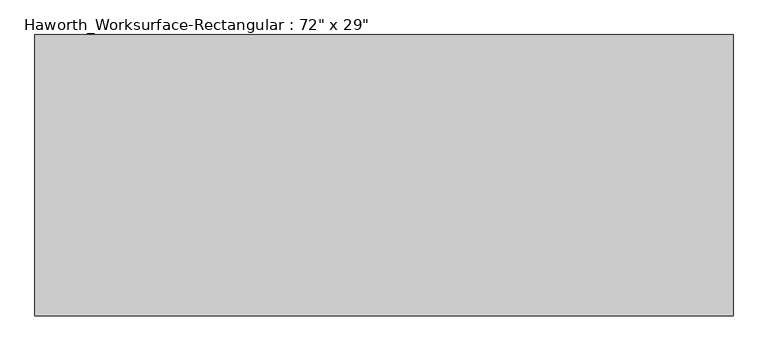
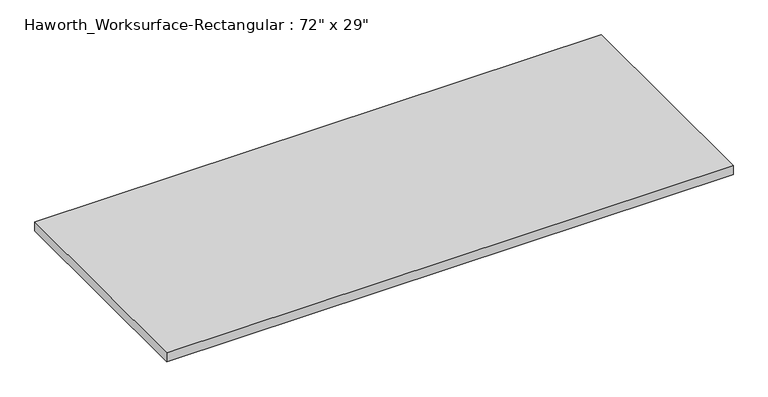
"""IFC4 building model written with IfcOpenShell, lengths in millimetres: furniture geometry."""

from ifc_helpers import new_model, si_unit, frame, origin, place, context, project, spatial, polyline, outline, extrude, source, transform, mapped, element, save


def furniture_1e764f3c(model_context):
    return source(origin(), model_context, "Body", "SweptSolid", [
        extrude(outline(polyline([(914.4, 368.3), (914.4, -368.3), (-914.4, -368.3), (-914.4, 368.3), (914.4, 368.3)])), frame((0.0, 0.0, 706.4375), z_axis=(0.0, 0.0, 1.0), x_axis=(1.0, 0.0, 0.0)), (0.0, 0.0, 1.0), 30.1625),
    ])


if __name__ == "__main__":
    model = new_model("IFC4")
    model_context = context("Model", 3, world=origin())
    ifc_project = project(units=[si_unit("LENGTHUNIT", "METRE", prefix="MILLI")], contexts=[model_context])
    site = spatial("IfcSite", under=ifc_project)
    building = spatial("IfcBuilding", under=site)
    placement = place(None, origin())
    furniture_shape = furniture_1e764f3c(model_context)
    element("IfcFurniture", 1, ObjectType="Haworth_Worksurface-Rectangular : 72\" x 29\"", at=placement, inside=building, context=model_context, shape_type="MappedRepresentation", body=[
        mapped(furniture_shape, transform((0.0, 0.0, 0.0), x_axis=(1.0, 0.0, 0.0), y_axis=(0.0, 1.0, 0.0), z_axis=(0.0, 0.0, 1.0))),
    ])
    save(model, "model.ifc")
